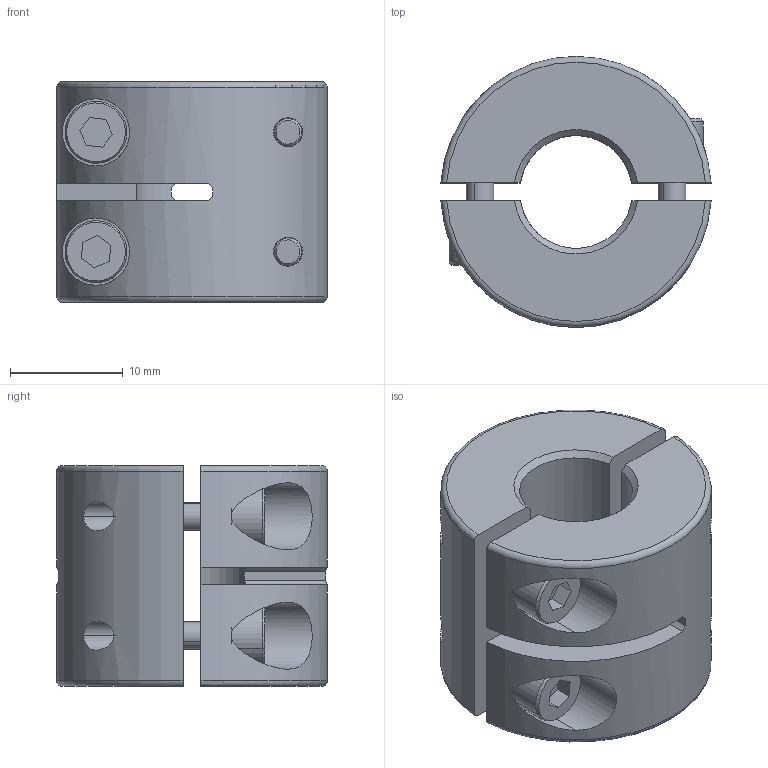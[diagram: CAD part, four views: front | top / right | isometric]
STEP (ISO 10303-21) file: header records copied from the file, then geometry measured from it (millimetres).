
FILE_DESCRIPTION (( 'STEP AP214' ), '1' );
FILE_NAME ('Ruland_MWSP-10-F.step', '2017-08-22T12:48:37', ( '' ), ( '' ), 'SwSTEP 2.0', 'SolidWorks 2017', '' );
FILE_SCHEMA (( 'AUTOMOTIVE_DESIGN' ));
Length unit declared in the file: inch
Products named in the file (4): MWSP Dbl Wide Collars top and bottom_MWSP-10; Metric Socket Head Cap Screws 1_CFM3_10; MWSP Assembled_MWSP-10-F; Ruland_MWSP-10-F
Assembly tree (7 placements, depth 3):
  Ruland_MWSP-10-F
    MWSP Assembled_MWSP-10-F
      MWSP Dbl Wide Collars top and bottom_MWSP-10  x2
    Metric Socket Head Cap Screws 1_CFM3_10  x4
Bounding box: 23.95 x 24 x 19.59 mm (x, y, z)
Volume: 6219.4 mm3; surface area: 4726.2 mm2
Topology: 6 solids, 6 shells, 132 faces, 308 edges, 200 vertices
Faces by surface type: plane 64, cylinder 44, cone 20, torus 4
Entity records: 1864 total; most frequent: CARTESIAN_POINT 499, DIRECTION 254, ORIENTED_EDGE 232, EDGE_CURVE 116, AXIS2_PLACEMENT_3D 99, VERTEX_POINT 76, EDGE_LOOP 60, VECTOR 56
